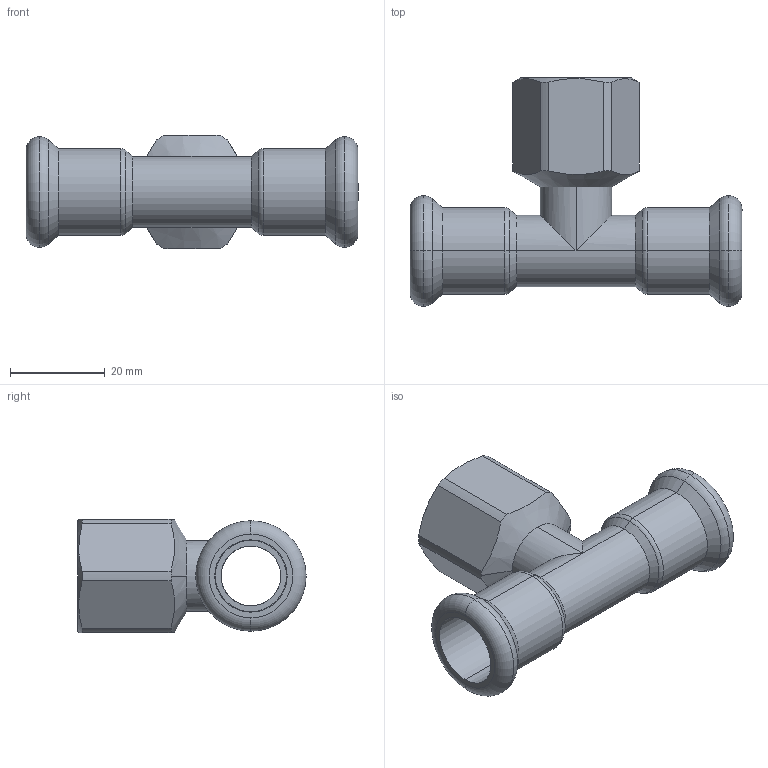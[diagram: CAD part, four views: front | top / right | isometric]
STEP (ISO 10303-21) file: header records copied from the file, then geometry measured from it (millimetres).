
FILE_DESCRIPTION(('CoCreate Modeling STEP Export'),'2;1');
FILE_NAME('C1418 15xRp1-2x15.stp','2014-11-12T12:58:18',(''),(''),'CoCreate Modeling STEP processor for AP214 (Solid Model)','CoCreate Modeling 17.00A 17-Jun-2010 (C) Parametric Technology GmbH','');
FILE_SCHEMA(('AUTOMOTIVE_DESIGN { 1 0 10303 214 1 1 1 1 }'));
Length unit declared in the file: millimetre
Products named in the file (2): C1418_15xRp1-2x15
Assembly tree (1 placements, depth 2):
  C1418_15xRp1-2x15
    C1418_15xRp1-2x15
Bounding box: 70 x 48.15 x 24 mm (x, y, z)
Volume: 11376.9 mm3; surface area: 11735.7 mm2
Topology: 1 solids, 1 shells, 68 faces, 157 edges, 95 vertices
Faces by surface type: cylinder 30, plane 14, cone 12, torus 12
Entity records: 2481 total; most frequent: CARTESIAN_POINT 1086, ORIENTED_EDGE 314, DIRECTION 246, EDGE_CURVE 157, AXIS2_PLACEMENT_3D 100, VERTEX_POINT 95, EDGE_LOOP 76, FACE_OUTER_BOUND 68
